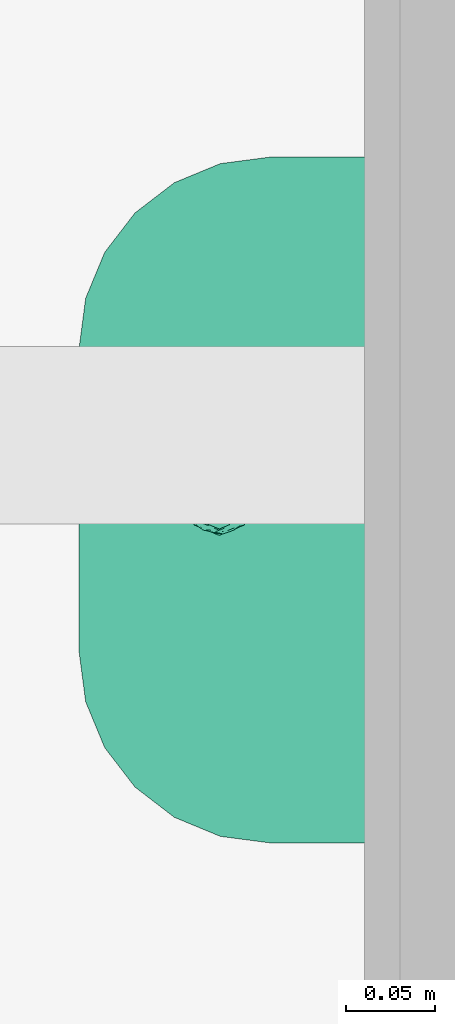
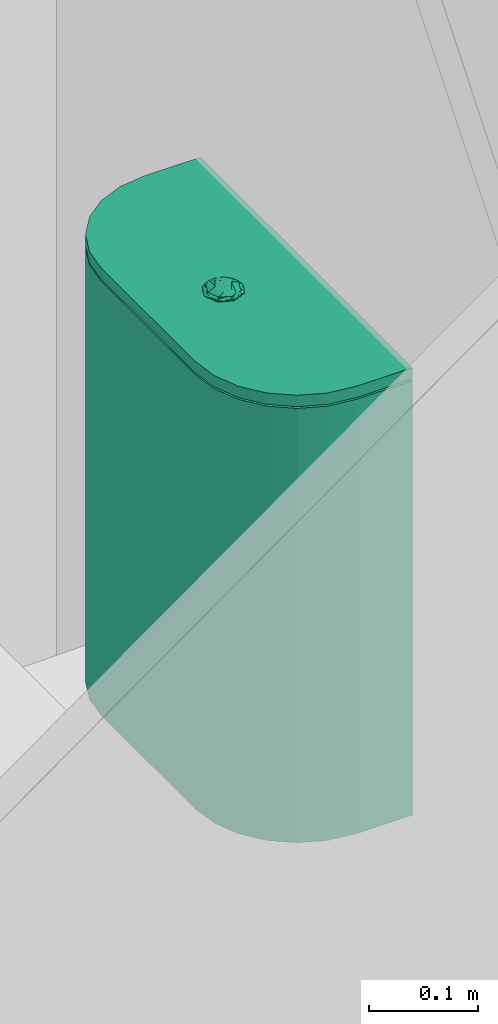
# One storey, part 61 of 75: 1 flow terminal.
"""IFC2X3 building model written with IfcOpenShell, lengths in metres."""

from ifc_helpers import new_model, entity, si_unit, converted_unit, derived_unit, direction, frame, origin, place, context, subcontext, project, spatial, faceted_brep, source, transform, mapped, material, material_list, type_object, type_shapes, element, save


model = new_model("IFC2X3")

# Units and contexts
model_context = context("Model", 3, precision=1e-05, world=origin(), true_north=direction((6.12303176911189e-17, 1.0)))
body_context = subcontext(model_context, "Body", "Model", "MODEL_VIEW")
ifc_project = project(units=[si_unit("LENGTHUNIT", "METRE"), si_unit("AREAUNIT", "SQUARE_METRE"), si_unit("VOLUMEUNIT", "CUBIC_METRE"), converted_unit("PLANEANGLEUNIT", "DEGREE", entity("IfcRatioMeasure", 0.0174532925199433), si_unit("PLANEANGLEUNIT", "RADIAN"), dimensions=[0, 0, 0, 0, 0, 0, 0]), si_unit("MASSUNIT", "GRAM", prefix="KILO"), derived_unit("MASSDENSITYUNIT", [(si_unit("MASSUNIT", "GRAM", prefix="KILO"), 1), (si_unit("LENGTHUNIT", "METRE"), -3)]), derived_unit("MOMENTOFINERTIAUNIT", [(si_unit("LENGTHUNIT", "METRE"), 4)]), si_unit("TIMEUNIT", "SECOND"), si_unit("FREQUENCYUNIT", "HERTZ"), si_unit("THERMODYNAMICTEMPERATUREUNIT", "DEGREE_CELSIUS"), derived_unit("THERMALTRANSMITTANCEUNIT", [(si_unit("MASSUNIT", "GRAM", prefix="KILO"), 1), (si_unit("THERMODYNAMICTEMPERATUREUNIT", "KELVIN"), -1), (si_unit("TIMEUNIT", "SECOND"), -3)]), derived_unit("VOLUMETRICFLOWRATEUNIT", [(si_unit("LENGTHUNIT", "METRE"), 3), (si_unit("TIMEUNIT", "SECOND"), -1)]), si_unit("ELECTRICCURRENTUNIT", "AMPERE"), si_unit("ELECTRICVOLTAGEUNIT", "VOLT"), si_unit("POWERUNIT", "WATT"), si_unit("FORCEUNIT", "NEWTON", prefix="KILO"), si_unit("ILLUMINANCEUNIT", "LUX"), si_unit("LUMINOUSFLUXUNIT", "LUMEN"), si_unit("LUMINOUSINTENSITYUNIT", "CANDELA"), derived_unit("USERDEFINED", [(si_unit("MASSUNIT", "GRAM", prefix="KILO"), -1), (si_unit("LENGTHUNIT", "METRE"), -2), (si_unit("TIMEUNIT", "SECOND"), 3), (si_unit("LUMINOUSFLUXUNIT", "LUMEN"), 1)]), derived_unit("LINEARVELOCITYUNIT", [(si_unit("LENGTHUNIT", "METRE"), 1), (si_unit("TIMEUNIT", "SECOND"), -1)]), si_unit("PRESSUREUNIT", "PASCAL"), derived_unit("USERDEFINED", [(si_unit("LENGTHUNIT", "METRE"), -2), (si_unit("MASSUNIT", "GRAM", prefix="KILO"), 1), (si_unit("TIMEUNIT", "SECOND"), -2)]), derived_unit("LINEARFORCEUNIT", [(si_unit("MASSUNIT", "GRAM", prefix="KILO"), 1), (si_unit("LENGTHUNIT", "METRE"), 1), (si_unit("TIMEUNIT", "SECOND"), -2), (si_unit("LENGTHUNIT", "METRE"), -1)]), derived_unit("PLANARFORCEUNIT", [(si_unit("MASSUNIT", "GRAM", prefix="KILO"), 1), (si_unit("LENGTHUNIT", "METRE"), 1), (si_unit("TIMEUNIT", "SECOND"), -2), (si_unit("LENGTHUNIT", "METRE"), -2)])], contexts=[model_context])

# Site, building, storey
site_placement = place(None, origin())
site = spatial("IfcSite", under=ifc_project, at=site_placement, Name="Superficie", CompositionType="ELEMENT")
building_placement = place(site_placement, origin())
building = spatial("IfcBuilding", under=site, at=building_placement, Name="Telegestiones", CompositionType="ELEMENT")
storey_placement = place(building_placement, origin())
storey = spatial("IfcBuildingStorey", under=building, at=storey_placement, Name="Nivel 0_NPT", CompositionType="ELEMENT", Elevation=0.0)

# Flow terminal
ifc_material_1 = material(Name="Metal - Ferrum - Cromado")
ifc_material_2 = material(Name="Ceramica - Ferrum - Blanco Satinado")
ifc_material_list_1 = material_list([ifc_material_1, ifc_material_2])
ifc_material_list_2 = material_list([ifc_material_2, ifc_material_1])
distribution_element_type = type_object("IfcDistributionElementType", Name="Inodoro-Ferrum-Marina-Deposito:Deposito", material=ifc_material_list_2)
shared_shape = source(origin(), body_context, "Body", "Brep", [
    faceted_brep([(0.0, -0.0879347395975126, 0.501461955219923), (0.0, -0.0708831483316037, 0.501461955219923), (-0.00479660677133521, -0.0728699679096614, 0.501461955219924), (-0.00842695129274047, -0.0743737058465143, 0.501461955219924), (-0.0120572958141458, -0.0758774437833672, 0.501461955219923), (-0.0133058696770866, -0.0788917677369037, 0.501461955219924), (-0.0145544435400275, -0.0819060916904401, 0.501461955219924), (-0.0158030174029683, -0.0849204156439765, 0.501461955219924), (-0.0170515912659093, -0.087934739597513, 0.501461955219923), (-0.0158030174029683, -0.0909490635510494, 0.501461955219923), (-0.0145544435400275, -0.0939633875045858, 0.501461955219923), (-0.0133058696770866, -0.0969777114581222, 0.501461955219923), (-0.0120572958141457, -0.0999920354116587, 0.501461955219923), (-0.00842695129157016, -0.101495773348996, 0.501461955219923), (-0.00479660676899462, -0.102999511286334, 0.501461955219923), (0.0, -0.104986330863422, 0.501461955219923), (0.0047966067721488, -0.102999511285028, 0.501461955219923), (0.00479660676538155, -0.0728699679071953, 0.501461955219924), (0.00842695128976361, -0.0743737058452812, 0.501461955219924), (0.0120572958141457, -0.0758774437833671, 0.501461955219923), (0.0133058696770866, -0.0788917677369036, 0.501461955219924), (0.0145544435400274, -0.08190609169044, 0.501461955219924), (0.0158030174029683, -0.0849204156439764, 0.501461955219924), (0.0170515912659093, -0.0879347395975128, 0.501461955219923), (0.00842695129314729, -0.101495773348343, 0.501461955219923), (0.0120572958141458, -0.0999920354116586, 0.501461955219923), (0.0133058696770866, -0.0969777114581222, 0.501461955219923), (0.0145544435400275, -0.0939633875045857, 0.501461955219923), (0.0158030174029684, -0.0909490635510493, 0.501461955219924), (0.0, -0.0879347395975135, 0.499004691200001), (-0.0141421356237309, -0.0737926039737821, 0.499004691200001), (-0.00988406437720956, -0.0720288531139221, 0.499004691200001), (-0.00562599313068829, -0.070265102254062, 0.499004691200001), (0.0, -0.067934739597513, 0.499004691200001), (0.00562599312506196, -0.0702651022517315, 0.499004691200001), (-0.0156066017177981, -0.0773281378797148, 0.499004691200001), (-0.0170710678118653, -0.0808636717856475, 0.499004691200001), (-0.0185355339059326, -0.0843992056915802, 0.499004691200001), (-0.0199999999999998, -0.0879347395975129, 0.499004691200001), (-0.0185355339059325, -0.0914702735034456, 0.499004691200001), (-0.0170710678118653, -0.0950058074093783, 0.499004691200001), (-0.015606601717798, -0.098541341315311, 0.499004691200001), (-0.0141421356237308, -0.102076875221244, 0.499004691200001), (-0.00988406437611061, -0.103840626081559, 0.499004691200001), (-0.00562599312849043, -0.105604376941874, 0.499004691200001), (0.0, -0.107934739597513, 0.499004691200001), (0.00988406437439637, -0.0720288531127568, 0.499004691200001), (0.0141421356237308, -0.073792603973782, 0.499004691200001), (0.015606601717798, -0.0773281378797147, 0.499004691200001), (0.0170710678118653, -0.0808636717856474, 0.499004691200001), (0.0185355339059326, -0.0843992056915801, 0.499004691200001), (0.0199999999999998, -0.0879347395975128, 0.499004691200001), (0.0185355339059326, -0.0914702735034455, 0.499004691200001), (0.00562599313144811, -0.105604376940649, 0.499004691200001), (0.0098840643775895, -0.103840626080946, 0.499004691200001), (0.0141421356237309, -0.102076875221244, 0.499004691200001), (0.0170710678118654, -0.0950058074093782, 0.499004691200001), (0.0156066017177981, -0.0985413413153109, 0.499004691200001), (-0.0106825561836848, -0.102196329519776, 0.500884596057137), (-0.013204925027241, -0.0999578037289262, 0.500853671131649), (-0.0124759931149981, -0.101684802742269, 0.500282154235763), (-0.0157937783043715, -0.0963766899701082, 0.500814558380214), (-0.0148252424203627, -0.0991118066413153, 0.50028215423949), (-0.00401935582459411, -0.0691551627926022, 0.499734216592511), (-0.00968739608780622, -0.10377358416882, 0.500282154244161), (-0.00437721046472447, -0.10555508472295, 0.500618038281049), (-0.00752313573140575, -0.104092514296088, 0.5008810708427), (0.0, -0.105664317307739, 0.500933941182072), (-0.0172182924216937, -0.095648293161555, 0.500028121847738), (0.0, -0.106501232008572, 0.500282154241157), (-0.017062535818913, -0.0930831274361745, 0.500881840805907), (-0.0177493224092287, -0.0896123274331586, 0.500877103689), (-0.0153450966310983, -0.0776814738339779, 0.500374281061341), (-0.0170166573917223, -0.0807405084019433, 0.500358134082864), (-0.00496458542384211, -0.0703027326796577, 0.500487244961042), (-0.00805501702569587, -0.0704028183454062, 0.499655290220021), (-0.00968739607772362, -0.0720958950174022, 0.500282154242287), (-0.00372687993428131, -0.106716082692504, 0.49978476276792), (0.0, -0.0702051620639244, 0.500933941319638), (0.0, -0.0693682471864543, 0.500282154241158), (-0.0111886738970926, -0.072216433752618, 0.499655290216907), (-0.0119381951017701, -0.103091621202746, 0.499655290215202), (-0.00762284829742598, -0.105588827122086, 0.499712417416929), (-0.0181504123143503, -0.0840261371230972, 0.500282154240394), (-0.018565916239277, -0.0877884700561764, 0.50028215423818), (-0.0177055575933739, -0.0861570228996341, 0.500903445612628), (-0.0182097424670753, -0.091556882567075, 0.500282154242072), (-0.0192009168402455, -0.089825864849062, 0.499655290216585), (-0.0170346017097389, -0.082767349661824, 0.500898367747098), (-0.0126874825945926, -0.0746691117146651, 0.50045576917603), (-0.0169081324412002, -0.0787166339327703, 0.499687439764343), (-0.0145243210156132, -0.0753984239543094, 0.499750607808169), (0.0106825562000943, -0.0736731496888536, 0.500884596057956), (0.0132049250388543, -0.075911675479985, 0.500853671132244), (0.0124759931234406, -0.0741846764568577, 0.500282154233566), (0.0157937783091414, -0.0794927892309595, 0.500814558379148), (0.0148252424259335, -0.0767576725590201, 0.500282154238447), (0.00509887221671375, -0.106043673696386, 0.50007430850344), (0.00968739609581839, -0.0720958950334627, 0.500282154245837), (0.00437721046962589, -0.0703143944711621, 0.500618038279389), (0.00752313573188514, -0.0717769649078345, 0.500881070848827), (0.0172182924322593, -0.0802211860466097, 0.50002812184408), (0.00968739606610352, -0.103773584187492, 0.500282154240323), (0.012687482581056, -0.101200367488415, 0.50045576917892), (0.0103332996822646, -0.102451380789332, 0.500884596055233), (0.0170625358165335, -0.0827863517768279, 0.500881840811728), (0.0177493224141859, -0.0862571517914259, 0.500877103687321), (0.0170166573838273, -0.0951289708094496, 0.500358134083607), (0.018150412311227, -0.0918433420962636, 0.500282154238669), (0.0170346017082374, -0.0931021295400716, 0.500898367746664), (0.014524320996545, -0.100471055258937, 0.4997506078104), (0.00743921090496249, -0.104126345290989, 0.500884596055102), (0.00372687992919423, -0.0691533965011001, 0.499784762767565), (0.0037488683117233, -0.105450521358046, 0.500811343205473), (0.0119381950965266, -0.0727778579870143, 0.499655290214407), (0.00762284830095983, -0.0702806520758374, 0.499712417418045), (0.0185659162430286, -0.0880810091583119, 0.500282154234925), (0.0177055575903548, -0.0897124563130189, 0.500903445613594), (0.0182097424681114, -0.0843125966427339, 0.500282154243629), (0.0192009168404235, -0.0860436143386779, 0.499655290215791), (0.0153450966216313, -0.0981880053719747, 0.500374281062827), (0.0169081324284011, -0.0971528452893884, 0.499687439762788)], [[[0, 1, 2]], [[0, 2, 3]], [[0, 3, 4]], [[0, 4, 5]], [[0, 5, 6]], [[0, 6, 7]], [[0, 7, 8]], [[0, 8, 9]], [[0, 9, 10]], [[0, 10, 11]], [[0, 11, 12]], [[0, 12, 13]], [[0, 13, 14]], [[0, 14, 15]], [[0, 15, 16]], [[0, 17, 1]], [[0, 18, 17]], [[0, 19, 18]], [[0, 20, 19]], [[0, 21, 20]], [[0, 22, 21]], [[0, 23, 22]], [[0, 16, 24]], [[0, 24, 25]], [[0, 25, 26]], [[0, 26, 27]], [[0, 27, 28]], [[0, 28, 23]], [[29, 30, 31]], [[29, 31, 32]], [[29, 32, 33]], [[29, 33, 34]], [[29, 35, 30]], [[29, 36, 35]], [[29, 37, 36]], [[29, 38, 37]], [[29, 39, 38]], [[29, 40, 39]], [[29, 41, 40]], [[29, 42, 41]], [[29, 43, 42]], [[29, 44, 43]], [[29, 45, 44]], [[29, 34, 46]], [[29, 46, 47]], [[29, 47, 48]], [[29, 48, 49]], [[29, 49, 50]], [[29, 50, 51]], [[29, 51, 52]], [[29, 53, 45]], [[29, 54, 53]], [[29, 55, 54]], [[29, 52, 56]], [[29, 56, 57]], [[29, 57, 55]], [[58, 59, 60]], [[59, 11, 61]], [[61, 62, 59]], [[33, 32, 63]], [[64, 65, 66]], [[15, 14, 67]], [[62, 68, 41]], [[69, 67, 65]], [[70, 9, 71]], [[68, 62, 61]], [[6, 72, 73]], [[74, 75, 76]], [[32, 75, 63]], [[31, 75, 32]], [[69, 65, 77]], [[74, 1, 78, 79]], [[74, 76, 3]], [[80, 76, 75]], [[81, 82, 64]], [[83, 37, 84]], [[71, 85, 84]], [[45, 69, 77]], [[68, 39, 40, 41]], [[68, 86, 87]], [[85, 7, 88]], [[88, 73, 83]], [[31, 80, 75]], [[89, 72, 5]], [[37, 38, 87]], [[36, 83, 90]], [[65, 67, 14]], [[13, 12, 58]], [[77, 82, 44]], [[82, 65, 64]], [[45, 77, 44]], [[65, 82, 77]], [[82, 81, 43]], [[43, 81, 42]], [[43, 44, 82]], [[60, 81, 64]], [[58, 64, 66]], [[62, 81, 60]], [[66, 14, 13]], [[60, 64, 58]], [[59, 58, 12]], [[14, 66, 65]], [[13, 58, 66]], [[59, 12, 11]], [[60, 59, 62]], [[11, 10, 61]], [[86, 70, 71]], [[61, 70, 68]], [[87, 38, 39]], [[42, 81, 62]], [[68, 87, 39]], [[42, 62, 41]], [[84, 87, 86]], [[71, 84, 86]], [[83, 36, 37]], [[73, 88, 6]], [[6, 88, 7]], [[85, 83, 84]], [[68, 70, 86]], [[8, 7, 85]], [[61, 10, 70]], [[9, 8, 71]], [[85, 88, 83]], [[8, 85, 71]], [[70, 10, 9]], [[73, 72, 90]], [[91, 90, 72]], [[91, 35, 90]], [[89, 91, 72]], [[76, 80, 89]], [[72, 6, 5]], [[87, 84, 37]], [[35, 91, 30]], [[91, 80, 30]], [[35, 36, 90]], [[75, 74, 63]], [[89, 3, 76]], [[1, 74, 3, 2]], [[74, 79, 63]], [[33, 63, 79]], [[30, 80, 31]], [[89, 80, 91]], [[3, 89, 4]], [[83, 73, 90]], [[4, 89, 5]], [[92, 93, 94]], [[93, 20, 95]], [[95, 96, 93]], [[45, 53, 54, 97]], [[98, 99, 100]], [[1, 17, 78]], [[96, 101, 48]], [[102, 103, 104]], [[105, 22, 106]], [[101, 96, 95]], [[107, 108, 109]], [[102, 54, 110]], [[104, 111, 102]], [[102, 111, 97]], [[79, 99, 112]], [[113, 15, 67, 69]], [[25, 24, 104]], [[79, 78, 99]], [[114, 115, 98]], [[116, 108, 52]], [[106, 117, 116]], [[33, 79, 112]], [[101, 50, 49, 48]], [[101, 118, 119]], [[117, 28, 109]], [[120, 27, 26]], [[110, 103, 102]], [[27, 120, 107]], [[52, 51, 119]], [[56, 108, 121]], [[99, 78, 17]], [[18, 19, 92]], [[112, 115, 34]], [[115, 99, 98]], [[33, 112, 34]], [[99, 115, 112]], [[115, 114, 46]], [[46, 114, 47]], [[46, 34, 115]], [[94, 114, 98]], [[92, 98, 100]], [[96, 114, 94]], [[100, 17, 18]], [[94, 98, 92]], [[93, 92, 19]], [[17, 100, 99]], [[18, 92, 100]], [[93, 19, 20]], [[94, 93, 96]], [[20, 21, 95]], [[118, 105, 106]], [[95, 105, 101]], [[119, 51, 50]], [[47, 114, 96]], [[101, 119, 50]], [[47, 96, 48]], [[116, 119, 118]], [[106, 116, 118]], [[108, 56, 52]], [[107, 109, 27]], [[27, 109, 28]], [[117, 108, 116]], [[101, 105, 118]], [[23, 28, 117]], [[95, 21, 105]], [[22, 23, 106]], [[117, 109, 108]], [[23, 117, 106]], [[105, 21, 22]], [[103, 26, 25]], [[107, 120, 121]], [[110, 121, 120]], [[110, 57, 121]], [[103, 110, 120]], [[97, 54, 102]], [[103, 120, 26]], [[24, 111, 104]], [[97, 111, 113]], [[111, 24, 16]], [[16, 113, 111]], [[45, 97, 69]], [[119, 116, 52]], [[15, 113, 16]], [[69, 97, 113]], [[57, 110, 55]], [[57, 56, 121]], [[25, 104, 103]], [[55, 110, 54]], [[108, 107, 121]]]),
    faceted_brep([(0.0, -0.0879347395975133, 0.501961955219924), (-0.0115552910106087, -0.0763794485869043, 0.501961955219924), (-0.00652729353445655, -0.0742967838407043, 0.501961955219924), (-0.0032636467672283, -0.0729449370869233, 0.501961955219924), (0.0, -0.0715930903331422, 0.501961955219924), (0.00652729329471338, -0.0742967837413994, 0.501961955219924), (-0.0139484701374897, -0.0821570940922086, 0.501961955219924), (-0.0163416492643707, -0.087934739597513, 0.501961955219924), (-0.0139484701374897, -0.0937123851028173, 0.501961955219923), (-0.0115552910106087, -0.0994900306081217, 0.501961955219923), (-0.00652729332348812, -0.101572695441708, 0.501961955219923), (0.0, -0.104276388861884, 0.501961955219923), (0.0115552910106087, -0.0763794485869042, 0.501961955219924), (0.0139484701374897, -0.0821570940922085, 0.501961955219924), (0.0163416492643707, -0.0879347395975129, 0.501961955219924), (0.0139484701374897, -0.0937123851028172, 0.501961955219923), (0.00326364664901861, -0.102924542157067, 0.501961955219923), (0.00652729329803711, -0.10157269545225, 0.501961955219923), (0.0115552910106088, -0.0994900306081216, 0.501961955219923), (0.0, -0.0964857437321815, 0.505715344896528), (0.0, -0.0922102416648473, 0.506360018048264), (-0.0100644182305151, -0.0911023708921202, 0.505017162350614), (-0.00557978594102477, -0.0879347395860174, 0.506462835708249), (-0.0101494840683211, -0.0826250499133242, 0.504646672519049), (0.0, -0.102536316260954, 0.502800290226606), (0.0, -0.100796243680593, 0.503638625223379), (0.0, -0.0986409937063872, 0.504676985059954), (0.0, -0.0836592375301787, 0.506360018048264), (0.0, -0.0793837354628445, 0.505715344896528), (0.0, -0.0772284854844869, 0.504676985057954), (0.0, -0.0750732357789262, 0.503638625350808), (0.0, -0.0733331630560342, 0.502800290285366), (0.0, -0.087934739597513, 0.5070046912), (0.01006441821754, -0.0847671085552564, 0.50501716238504), (0.00557978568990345, -0.0879347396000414, 0.506462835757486), (0.0101494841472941, -0.0932444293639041, 0.504646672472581)], [[[0, 1, 2]], [[0, 2, 3]], [[0, 3, 4]], [[0, 4, 5]], [[0, 6, 1]], [[0, 7, 6]], [[0, 8, 7]], [[0, 9, 8]], [[0, 10, 9]], [[0, 11, 10]], [[0, 5, 12]], [[0, 12, 13]], [[0, 13, 14]], [[0, 14, 15]], [[0, 16, 11]], [[0, 17, 16]], [[0, 18, 17]], [[0, 15, 18]], [[19, 20, 21]], [[19, 8, 9]], [[22, 23, 21]], [[10, 11, 24, 25, 26, 19, 9]], [[21, 8, 19]], [[27, 28, 23]], [[23, 1, 6, 7]], [[1, 23, 28]], [[23, 7, 21]], [[3, 2, 1, 28, 29, 30, 31, 4]], [[27, 22, 32]], [[7, 8, 21]], [[20, 32, 22]], [[23, 22, 27]], [[21, 20, 22]], [[28, 27, 33]], [[28, 13, 12]], [[34, 35, 33]], [[5, 4, 31, 30, 29, 28, 12]], [[33, 13, 28]], [[20, 19, 35]], [[35, 18, 15, 14]], [[18, 35, 19]], [[35, 14, 33]], [[24, 11, 16, 17, 18, 19, 26, 25]], [[20, 34, 32]], [[14, 13, 33]], [[27, 32, 34]], [[35, 34, 20]], [[33, 27, 34]]]),
    faceted_brep([(0.1935, -0.059548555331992, 0.4863750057), (0.189838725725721, -0.0873586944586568, 0.4863750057), (0.179104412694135, -0.113273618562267, 0.4863750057), (0.162028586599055, -0.135527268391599, 0.4863750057), (0.139774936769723, -0.152603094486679, 0.486375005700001), (0.113860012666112, -0.163337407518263, 0.486375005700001), (0.0860498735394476, -0.166998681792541, 0.486375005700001), (-0.0860498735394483, -0.166998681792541, 0.486375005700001), (-0.113860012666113, -0.163337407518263, 0.486375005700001), (-0.139774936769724, -0.152603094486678, 0.486375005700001), (-0.162028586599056, -0.135527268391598, 0.4863750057), (-0.179104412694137, -0.113273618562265, 0.4863750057), (-0.189838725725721, -0.0873586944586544, 0.4863750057), (-0.1935, -0.0595485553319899, 0.4863750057), (-0.1935, 0.0, 0.4863750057), (0.1935, 0.0, 0.4863750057), (-0.1935, -0.0595485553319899, 0.499004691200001), (-0.189838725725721, -0.0873586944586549, 0.499004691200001), (-0.179104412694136, -0.113273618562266, 0.499004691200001), (-0.162028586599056, -0.135527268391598, 0.499004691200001), (-0.139774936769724, -0.152603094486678, 0.499004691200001), (-0.113860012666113, -0.163337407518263, 0.499004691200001), (-0.0860498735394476, -0.166998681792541, 0.499004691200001), (0.0860498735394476, -0.166998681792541, 0.499004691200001), (0.113860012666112, -0.163337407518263, 0.499004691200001), (0.139774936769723, -0.152603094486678, 0.499004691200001), (0.162028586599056, -0.135527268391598, 0.499004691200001), (0.179104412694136, -0.113273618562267, 0.499004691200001), (0.189838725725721, -0.0873586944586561, 0.499004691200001), (0.1935, -0.0595485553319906, 0.499004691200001), (0.1935, 0.0, 0.499004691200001), (-0.1935, 0.0, 0.499004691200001)], [[[0, 1, 2, 3, 4, 5, 6, 7, 8, 9, 10, 11, 12, 13, 14, 15]], [[16, 17, 18, 19, 20, 21, 22, 23, 24, 25, 26, 27, 28, 29, 30, 31]], [[16, 31, 14, 13]], [[16, 13, 12, 17]], [[17, 12, 11, 18]], [[18, 11, 10, 19]], [[8, 7, 22, 21]], [[9, 8, 21, 20]], [[19, 10, 9, 20]], [[23, 22, 7, 6]], [[23, 6, 5, 24]], [[24, 5, 4, 25]], [[25, 4, 3, 26]], [[27, 2, 1, 28]], [[28, 1, 0, 29]], [[26, 3, 2, 27]], [[30, 29, 0, 15]], [[31, 30, 15, 14]]]),
    faceted_brep([(-0.1935, -0.05954855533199, 0.484375), (-0.1935, 0.0, 0.484375), (-0.1935, 0.0, 0.0), (-0.1935, -0.0595485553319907, 0.0), (-0.189838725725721, -0.0873586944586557, 0.0), (-0.179104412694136, -0.113273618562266, 0.0), (-0.179104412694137, -0.113273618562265, 0.484375), (-0.189838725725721, -0.0873586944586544, 0.484375), (-0.162028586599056, -0.135527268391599, 0.0), (-0.162028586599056, -0.135527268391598, 0.484375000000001), (-0.113860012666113, -0.163337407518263, 0.484375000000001), (-0.139774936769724, -0.152603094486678, 0.484375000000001), (-0.139774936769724, -0.152603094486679, 0.0), (-0.113860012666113, -0.163337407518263, 0.0), (-0.0860498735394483, -0.166998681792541, 0.484375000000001), (-0.0860498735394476, -0.166998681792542, 0.0), (0.0860498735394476, -0.166998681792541, 0.484375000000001), (0.0860498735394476, -0.166998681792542, 0.0), (0.113860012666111, -0.163337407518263, 0.484375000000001), (0.113860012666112, -0.163337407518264, 0.0), (0.139774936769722, -0.152603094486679, 0.484375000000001), (0.139774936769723, -0.152603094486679, 0.0), (0.162028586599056, -0.135527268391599, 0.0), (0.162028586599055, -0.1355272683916, 0.484375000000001), (0.189838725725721, -0.0873586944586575, 0.484375), (0.179104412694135, -0.113273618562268, 0.484375), (0.179104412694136, -0.113273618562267, 0.0), (0.189838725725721, -0.0873586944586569, 0.0), (0.1935, -0.0595485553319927, 0.484375), (0.1935, -0.0595485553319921, 0.0), (0.1935, 0.0, 0.484375), (0.1935, 0.0, 0.0)], [[[0, 1, 2, 3]], [[4, 5, 6, 7]], [[3, 4, 7, 0]], [[5, 8, 9, 6]], [[10, 11, 12, 13]], [[14, 10, 13, 15]], [[8, 12, 11, 9]], [[16, 14, 15, 17]], [[18, 16, 17, 19]], [[20, 18, 19, 21]], [[21, 22, 23, 20]], [[24, 25, 26, 27]], [[28, 24, 27, 29]], [[22, 26, 25, 23]], [[30, 28, 29, 31]], [[1, 30, 31, 2]], [[20, 23, 25, 24, 28, 30, 1, 0, 7, 6, 9, 11, 10, 14, 16, 18]], [[13, 12, 8, 5, 4, 3, 2, 31, 29, 27, 26, 22, 21, 19, 17, 15]]]),
])
type_shapes(distribution_element_type, [shared_shape])
flow_terminal_placement = place(storey_placement, frame((5.34028977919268, -3.69289277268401, 0.417884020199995), z_axis=(0.0, 0.0, 1.0), x_axis=(0.0, -1.0, 0.0)))
element("IfcFlowTerminal", 1, at=flow_terminal_placement, inside=storey, type_object=distribution_element_type, material=ifc_material_list_1, Name="Inodoro-Ferrum-Marina-Deposito:Deposito", ObjectType="Inodoro-Ferrum-Marina-Deposito:Deposito", context=body_context, shape_type="MappedRepresentation", body=[
    mapped(shared_shape, transform((0.0, 0.0, 0.0), scale=1.0)),
])

save(model, "model.ifc")
